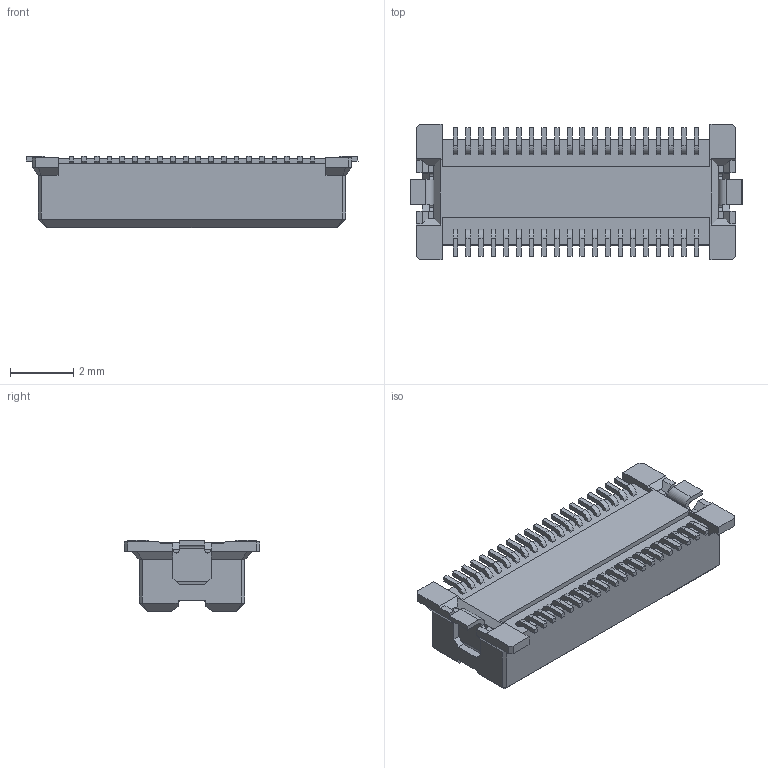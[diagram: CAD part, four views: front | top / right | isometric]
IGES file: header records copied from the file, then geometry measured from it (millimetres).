
Start section: Elysium IGES Interface
Global section: file name: 138H\\Honsha3\ko_gi\登録\KONEGI\62期\第三技術部\設計共有\DUSxx-xxxS-3\量産開発\3D\客先提出用3D\P3E549_DUS10-040S-3-T\P3E549_DUS10-040S-3-T.igs; native system: Creo Elements/Direct Modeling 20.6  25-Mar-2023; preprocessor: Creo Element/Direct IGES_3D V2.2; author: Unknown; organization: Unknown; date: 20240326.085507; units: millimetre
Bounding box: 10.47 x 4.26 x 2.25 mm (x, y, z)
Volume: 55 mm3; surface area: 188.4 mm2
Topology: 1 solids, 1 shells, 818 faces, 2296 edges, 1520 vertices
Faces by surface type: bspline 818
